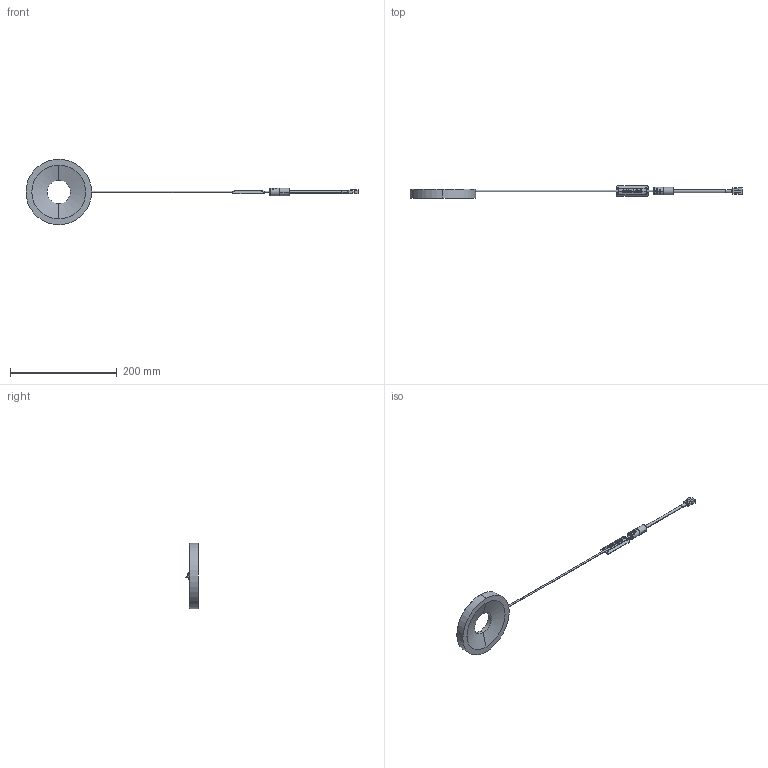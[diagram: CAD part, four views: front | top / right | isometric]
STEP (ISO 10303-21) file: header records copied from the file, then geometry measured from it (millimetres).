
FILE_DESCRIPTION (( 'STEP AP203' ), '1' );
FILE_NAME ('MSRL-C#44_A09313A0100101A-003.STEP', '2013-12-19T02:22:22', ( 'SCHOTT' ), ( 'SCHOTT' ), 'SwSTEP 2.0', 'SolidWorks 2011', '' );
FILE_SCHEMA (( 'CONFIG_CONTROL_DESIGN' ));
Length unit declared in the file: millimetre
Products named in the file (1): MSRL-C#44_A09313A0100101A-003
Bounding box: 623 x 23.1 x 123 mm (x, y, z)
Volume: 165754.7 mm3; surface area: 39957.1 mm2
Topology: 2 solids, 2 shells, 365 faces, 1261 edges, 946 vertices
Faces by surface type: plane 175, cylinder 149, cone 18, torus 11, bspline 8, sphere 4
Entity records: 20221 total; most frequent: CARTESIAN_POINT 9357, ORIENTED_EDGE 2514, DIRECTION 1949, EDGE_CURVE 1257, VERTEX_POINT 946, AXIS2_PLACEMENT_3D 675, VECTOR 599, LINE 599
